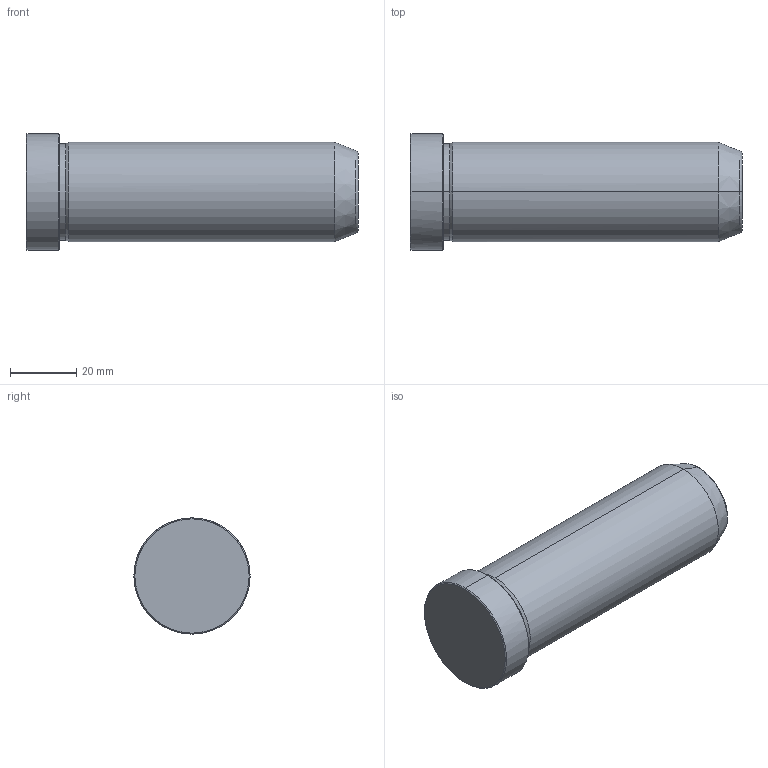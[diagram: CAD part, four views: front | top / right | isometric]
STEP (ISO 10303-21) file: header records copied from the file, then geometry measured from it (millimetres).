
FILE_DESCRIPTION(('CATIA V5 STEP Exchange'),'2;1');
FILE_NAME('C:\Users\Utente\Desktop\IO LAVORO\3D X SITO CF\X SITO\PLASTICA\549\549-30X100.stp','2021-12-17T15:35:22+00:00',('none'),('none'),'CATIA Version 5 Release 20 GA (IN-10)','CATIA V5 STEP AP203','none');
FILE_SCHEMA(('CONFIG_CONTROL_DESIGN'));
Length unit declared in the file: millimetre
Products named in the file (1): 549-30X100
Bounding box: 100 x 35 x 35 mm (x, y, z)
Volume: 72235.2 mm3; surface area: 11249 mm2
Topology: 1 solids, 1 shells, 19 faces, 56 edges, 40 vertices
Faces by surface type: cone 8, cylinder 6, plane 3, torus 2
Entity records: 736 total; most frequent: CARTESIAN_POINT 192, ORIENTED_EDGE 112, DIRECTION 86, EDGE_CURVE 56, AXIS2_PLACEMENT_3D 54, VERTEX_POINT 40, CIRCLE 34, EDGE_LOOP 20
